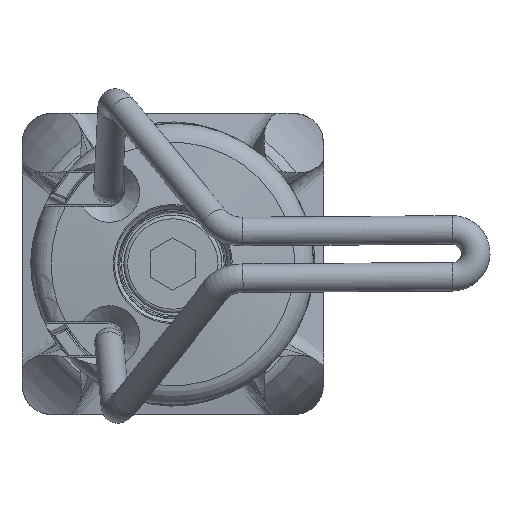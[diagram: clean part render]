
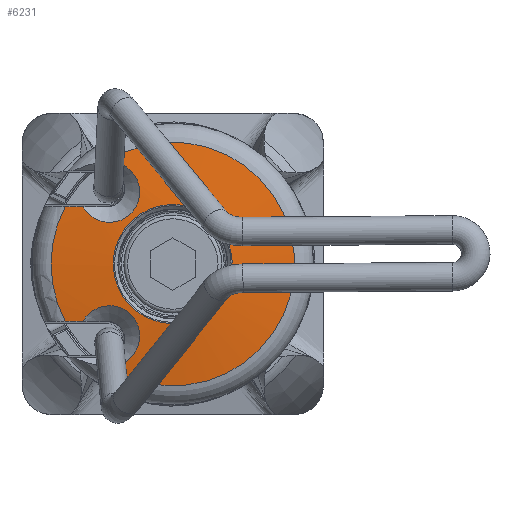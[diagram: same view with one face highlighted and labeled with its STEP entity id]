
A CAD part, left-side view. The second image highlights one B-rep face of the part: STEP entity #6231.
In plain terms, the highlighted spherical face has radius 100.629 mm.
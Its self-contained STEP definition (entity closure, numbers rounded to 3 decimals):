
#18=SPHERICAL_SURFACE('',#6919,100.629);
#1366=B_SPLINE_CURVE_WITH_KNOTS('',3,(#11026,#11027,#11028,#11029,#11030,
#11031,#11032,#11033,#11034,#11035,#11036),.UNSPECIFIED.,.F.,.F.,(4,1,1,
1,1,1,1,1,4),(0.003,0.005,0.007,
0.009,0.011,0.014,0.016,
0.018,0.02),.UNSPECIFIED.);
#1367=B_SPLINE_CURVE_WITH_KNOTS('',3,(#11041,#11042,#11043,#11044,#11045,
#11046,#11047,#11048,#11049,#11050,#11051),.UNSPECIFIED.,.F.,.F.,(4,1,1,
1,1,1,1,1,4),(0.,0.002,0.004,
0.006,0.009,0.011,0.013,
0.015,0.017),.UNSPECIFIED.);
#2778=ORIENTED_EDGE('',*,*,#3914,.T.);
#2779=ORIENTED_EDGE('',*,*,#3915,.T.);
#2780=ORIENTED_EDGE('',*,*,#3916,.T.);
#2781=ORIENTED_EDGE('',*,*,#3917,.T.);
#2782=ORIENTED_EDGE('',*,*,#3918,.T.);
#2783=ORIENTED_EDGE('',*,*,#3919,.T.);
#2784=ORIENTED_EDGE('',*,*,#3920,.F.);
#3914=EDGE_CURVE('',#4603,#4604,#1366,.T.);
#3915=EDGE_CURVE('',#4604,#4605,#4998,.T.);
#3916=EDGE_CURVE('',#4605,#4606,#1367,.T.);
#3917=EDGE_CURVE('',#4606,#4607,#4999,.F.);
#3918=EDGE_CURVE('',#4607,#4608,#5000,.T.);
#3919=EDGE_CURVE('',#4608,#4603,#5001,.F.);
#3920=EDGE_CURVE('',#4609,#4609,#5002,.T.);
#4603=VERTEX_POINT('',#11037);
#4604=VERTEX_POINT('',#11038);
#4605=VERTEX_POINT('',#11040);
#4606=VERTEX_POINT('',#11052);
#4607=VERTEX_POINT('',#11054);
#4608=VERTEX_POINT('',#11056);
#4609=VERTEX_POINT('',#11059);
#4998=CIRCLE('',#6920,16.15);
#4999=CIRCLE('',#6921,100.111);
#5000=CIRCLE('',#6922,16.15);
#5001=CIRCLE('',#6923,100.111);
#5002=CIRCLE('',#6924,7.894);
#5371=EDGE_LOOP('',(#2778,#2779,#2780,#2781,#2782,#2783));
#5372=EDGE_LOOP('',(#2784));
#5801=FACE_BOUND('',#5371,.T.);
#5802=FACE_BOUND('',#5372,.T.);
#6231=ADVANCED_FACE('',(#5801,#5802),#18,.T.);
#6919=AXIS2_PLACEMENT_3D('',#11025,#8468,#8469);
#6920=AXIS2_PLACEMENT_3D('',#11039,#8470,#8471);
#6921=AXIS2_PLACEMENT_3D('',#11053,#8472,#8473);
#6922=AXIS2_PLACEMENT_3D('',#11055,#8474,#8475);
#6923=AXIS2_PLACEMENT_3D('',#11057,#8476,#8477);
#6924=AXIS2_PLACEMENT_3D('',#11058,#8478,#8479);
#8468=DIRECTION('',(1.,0.,0.));
#8469=DIRECTION('',(0.,1.,0.));
#8470=DIRECTION('',(1.,0.,0.));
#8471=DIRECTION('',(0.,0.,-1.));
#8472=DIRECTION('',(0.026,1.,0.));
#8473=DIRECTION('',(-1.,0.026,0.));
#8474=DIRECTION('',(1.,0.,0.));
#8475=DIRECTION('',(0.,0.,-1.));
#8476=DIRECTION('',(0.026,-1.,0.));
#8477=DIRECTION('',(1.,0.026,0.));
#8478=DIRECTION('',(1.,0.,0.));
#8479=DIRECTION('',(0.,0.,-1.));
#11025=CARTESIAN_POINT('',(-89.871,0.,0.));
#11026=CARTESIAN_POINT('',(9.76,-7.594,11.925));
#11027=CARTESIAN_POINT('',(9.85,-6.971,11.57));
#11028=CARTESIAN_POINT('',(10.037,-5.925,10.536));
#11029=CARTESIAN_POINT('',(10.274,-5.336,8.383));
#11030=CARTESIAN_POINT('',(10.398,-5.927,6.231));
#11031=CARTESIAN_POINT('',(10.373,-7.557,4.681));
#11032=CARTESIAN_POINT('',(10.206,-9.739,4.199));
#11033=CARTESIAN_POINT('',(9.946,-11.852,4.881));
#11034=CARTESIAN_POINT('',(9.664,-13.34,6.531));
#11035=CARTESIAN_POINT('',(9.511,-13.65,7.976));
#11036=CARTESIAN_POINT('',(9.453,-13.607,8.7));
#11037=CARTESIAN_POINT('',(9.76,-7.594,11.925));
#11038=CARTESIAN_POINT('',(9.453,-13.607,8.7));
#11039=CARTESIAN_POINT('',(9.453,0.,0.));
#11040=CARTESIAN_POINT('',(9.453,13.607,8.7));
#11041=CARTESIAN_POINT('',(9.453,13.607,8.7));
#11042=CARTESIAN_POINT('',(9.511,13.65,7.976));
#11043=CARTESIAN_POINT('',(9.663,13.342,6.535));
#11044=CARTESIAN_POINT('',(9.946,11.853,4.882));
#11045=CARTESIAN_POINT('',(10.205,9.745,4.199));
#11046=CARTESIAN_POINT('',(10.373,7.557,4.681));
#11047=CARTESIAN_POINT('',(10.398,5.932,6.222));
#11048=CARTESIAN_POINT('',(10.274,5.335,8.385));
#11049=CARTESIAN_POINT('',(10.038,5.922,10.533));
#11050=CARTESIAN_POINT('',(9.849,6.976,11.572));
#11051=CARTESIAN_POINT('',(9.76,7.594,11.925));
#11052=CARTESIAN_POINT('',(9.76,7.594,11.925));
#11053=CARTESIAN_POINT('',(-89.604,10.196,0.));
#11054=CARTESIAN_POINT('',(9.453,7.602,14.249));
#11055=CARTESIAN_POINT('',(9.453,0.,0.));
#11056=CARTESIAN_POINT('',(9.453,-7.602,14.249));
#11057=CARTESIAN_POINT('',(-89.604,-10.196,0.));
#11058=CARTESIAN_POINT('',(10.448,0.,0.));
#11059=CARTESIAN_POINT('',(10.448,0.,-7.894));
